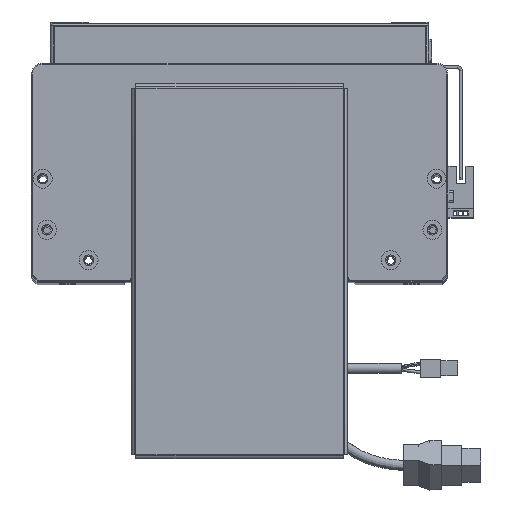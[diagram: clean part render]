
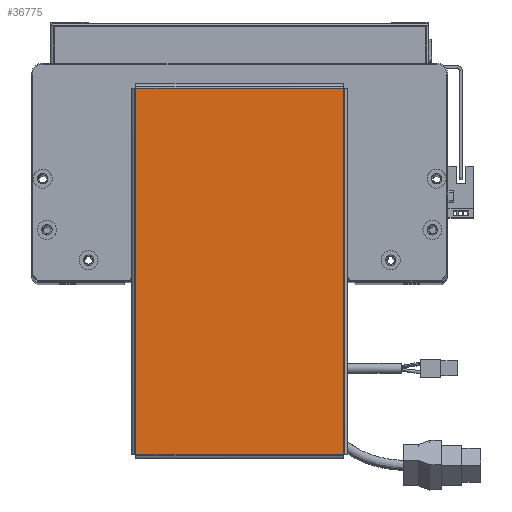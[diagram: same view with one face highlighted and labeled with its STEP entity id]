
A CAD part, top view. The second image highlights one B-rep face of the part: STEP entity #36775.
In plain terms, the highlighted planar face has unit normal (0, 0, 1).
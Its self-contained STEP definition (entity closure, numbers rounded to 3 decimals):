
#4697 = CARTESIAN_POINT ( 'NONE',  ( 96.793, 54.763, 0. ) ) ;
#4892 = EDGE_CURVE ( 'NONE', #34335, #33696, #25219, .T. ) ;
#5202 = CARTESIAN_POINT ( 'NONE',  ( 0., 0., 0. ) ) ;
#5931 = DIRECTION ( 'NONE',  ( 1., 0., 0. ) ) ;
#8937 = LINE ( 'NONE', #45933, #56280 ) ;
#10018 = VERTEX_POINT ( 'NONE', #45131 ) ;
#10714 = CARTESIAN_POINT ( 'NONE',  ( -96.793, -54.763, 0. ) ) ;
#11404 = VERTEX_POINT ( 'NONE', #59776 ) ;
#12072 = VECTOR ( 'NONE', #15648, 1000. ) ;
#13000 = EDGE_CURVE ( 'NONE', #33696, #10018, #56923, .T. ) ;
#14660 = ORIENTED_EDGE ( 'NONE', *, *, #56109, .T. ) ;
#15648 = DIRECTION ( 'NONE',  ( 0., 1., 0. ) ) ;
#16795 = CARTESIAN_POINT ( 'NONE',  ( 96.763, -54.763, 0. ) ) ;
#17096 = DIRECTION ( 'NONE',  ( 1., 0., 0. ) ) ;
#20469 = FACE_OUTER_BOUND ( 'NONE', #40183, .T. ) ;
#20904 = CARTESIAN_POINT ( 'NONE',  ( 96.763, 54.763, 0. ) ) ;
#22082 = VECTOR ( 'NONE', #5931, 1000. ) ;
#25219 = LINE ( 'NONE', #27636, #12072 ) ;
#26117 = DIRECTION ( 'NONE',  ( -1., 0., 0. ) ) ;
#27636 = CARTESIAN_POINT ( 'NONE',  ( 96.763, -54.793, 0. ) ) ;
#30099 = ORIENTED_EDGE ( 'NONE', *, *, #4892, .T. ) ;
#33441 = ORIENTED_EDGE ( 'NONE', *, *, #55521, .T. ) ;
#33696 = VERTEX_POINT ( 'NONE', #20904 ) ;
#34335 = VERTEX_POINT ( 'NONE', #16795 ) ;
#36775 = ADVANCED_FACE ( 'NONE', ( #20469 ), #63315, .T. ) ;
#40183 = EDGE_LOOP ( 'NONE', ( #14660, #30099, #58321, #33441 ) ) ;
#45131 = CARTESIAN_POINT ( 'NONE',  ( -96.763, 54.763, 0. ) ) ;
#45933 = CARTESIAN_POINT ( 'NONE',  ( -96.763, 54.793, 0. ) ) ;
#49135 = VECTOR ( 'NONE', #26117, 1000. ) ;
#50945 = DIRECTION ( 'NONE',  ( 0., -1., 0. ) ) ;
#53174 = LINE ( 'NONE', #10714, #22082 ) ;
#55521 = EDGE_CURVE ( 'NONE', #10018, #11404, #8937, .T. ) ;
#56109 = EDGE_CURVE ( 'NONE', #11404, #34335, #53174, .T. ) ;
#56280 = VECTOR ( 'NONE', #50945, 1000. ) ;
#56923 = LINE ( 'NONE', #4697, #49135 ) ;
#58321 = ORIENTED_EDGE ( 'NONE', *, *, #13000, .T. ) ;
#59429 = DIRECTION ( 'NONE',  ( 0., 0., 1. ) ) ;
#59776 = CARTESIAN_POINT ( 'NONE',  ( -96.763, -54.763, 0. ) ) ;
#63315 = PLANE ( 'NONE',  #63709 ) ;
#63709 = AXIS2_PLACEMENT_3D ( 'NONE', #5202, #59429, #17096 ) ;
